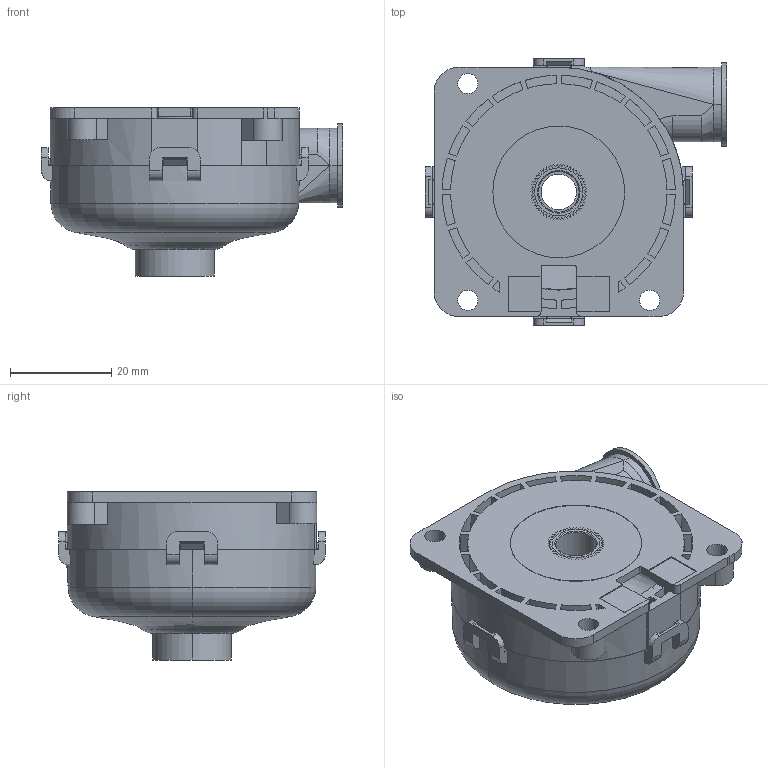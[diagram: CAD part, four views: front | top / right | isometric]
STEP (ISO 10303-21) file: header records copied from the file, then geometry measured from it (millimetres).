
FILE_DESCRIPTION((''),'2;1');
FILE_NAME('38663C7C3A7APYEF_ASM','2026-04-07T14:30:12',('pc'),(''),'CREO PARAMETRIC BY PTC INC, 2018050','CREO PARAMETRIC BY PTC INC, 2018050','');
FILE_SCHEMA(('CONFIG_CONTROL_DESIGN','GEOMETRIC_VALIDATION_PROPERTIES_MIM'));
Length unit declared in the file: millimetre
Products named in the file (4): 38663C7C3A7APYEF_3; 38663C7C3A7APYEF_4; 38663C7C3A7APYEF_8; 38663C7C3A7APYEF_ASM
Assembly tree (3 placements, depth 2):
  38663C7C3A7APYEF_ASM
    38663C7C3A7APYEF_3
    38663C7C3A7APYEF_4
    38663C7C3A7APYEF_8
Bounding box: 59.4 x 52.6 x 33.15 mm (x, y, z)
Volume: 15009 mm3; surface area: 19240.5 mm2
Topology: 3 solids, 3 shells, 664 faces, 1748 edges, 1099 vertices
Faces by surface type: plane 500, cylinder 116, torus 15, bspline 15, cone 10, revolution 8
Entity records: 24287 total; most frequent: CARTESIAN_POINT 4621, ORIENTED_EDGE 3484, DIRECTION 3431, EDGE_CURVE 1742, VECTOR 1183, LINE 1183, AXIS2_PLACEMENT_3D 1120, VERTEX_POINT 1099
